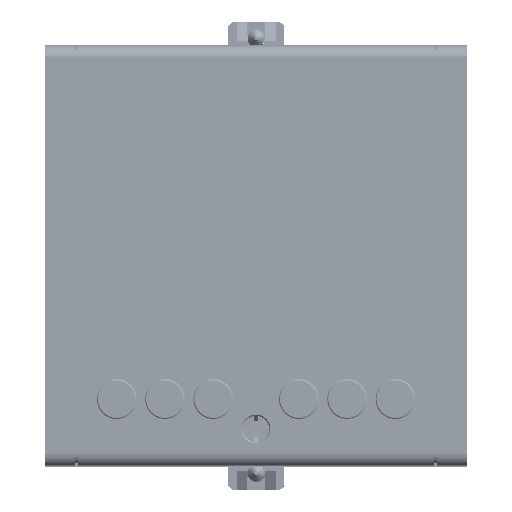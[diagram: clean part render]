
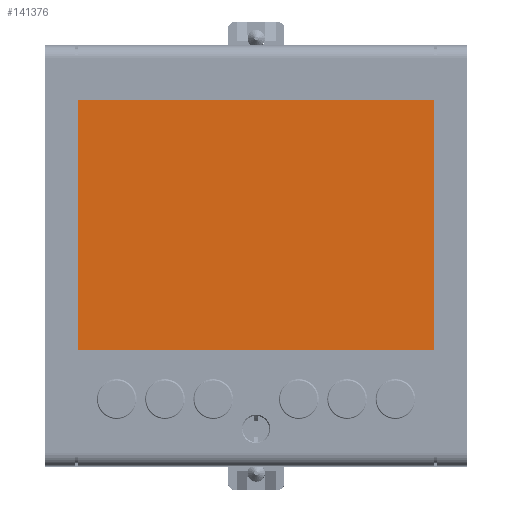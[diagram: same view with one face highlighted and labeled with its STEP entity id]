
A CAD part, top view. The second image highlights one B-rep face of the part: STEP entity #141376.
In plain terms, the highlighted planar face has unit normal (0, 0, 1) as drawn and (-1, 0, 0) by its records, which use the part's own axes.
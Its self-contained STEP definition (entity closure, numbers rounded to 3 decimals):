
#141007=DIRECTION('',(0.,0.,1.));
#141008=VECTOR('',#141007,56.9);
#141009=CARTESIAN_POINT('',(-1.5,-40.45,-28.45));
#141010=LINE('',#141009,#141008);
#141014=DIRECTION('',(0.,-1.,0.));
#141015=VECTOR('',#141014,80.9);
#141016=CARTESIAN_POINT('',(-1.5,40.45,-28.45));
#141017=LINE('',#141016,#141015);
#141021=DIRECTION('',(0.,0.,-1.));
#141022=VECTOR('',#141021,56.9);
#141023=CARTESIAN_POINT('',(-1.5,40.45,28.45));
#141024=LINE('',#141023,#141022);
#141028=DIRECTION('',(0.,1.,0.));
#141029=VECTOR('',#141028,80.9);
#141030=CARTESIAN_POINT('',(-1.5,-40.45,28.45));
#141031=LINE('',#141030,#141029);
#141219=CARTESIAN_POINT('',(-1.5,-40.45,-28.45));
#141220=CARTESIAN_POINT('',(-1.5,-40.45,28.45));
#141221=VERTEX_POINT('',#141219);
#141222=VERTEX_POINT('',#141220);
#141223=CARTESIAN_POINT('',(-1.5,40.45,28.45));
#141224=VERTEX_POINT('',#141223);
#141225=CARTESIAN_POINT('',(-1.5,40.45,-28.45));
#141226=VERTEX_POINT('',#141225);
#141365=CARTESIAN_POINT('',(-1.5,0.,0.));
#141366=DIRECTION('',(-1.,0.,0.));
#141367=DIRECTION('',(0.,1.,0.));
#141368=AXIS2_PLACEMENT_3D('',#141365,#141366,#141367);
#141369=PLANE('',#141368);
#141370=ORIENTED_EDGE('',*,*,#141317,.F.);
#141371=ORIENTED_EDGE('',*,*,#141332,.F.);
#141372=ORIENTED_EDGE('',*,*,#141346,.F.);
#141373=ORIENTED_EDGE('',*,*,#141359,.F.);
#141374=EDGE_LOOP('',(#141370,#141371,#141372,#141373));
#141375=FACE_OUTER_BOUND('',#141374,.F.);
#141317=EDGE_CURVE('',#141221,#141222,#141010,.T.);
#141332=EDGE_CURVE('',#141226,#141221,#141017,.T.);
#141346=EDGE_CURVE('',#141224,#141226,#141024,.T.);
#141359=EDGE_CURVE('',#141222,#141224,#141031,.T.);
#141376=ADVANCED_FACE('',(#141375),#141369,.T.);
